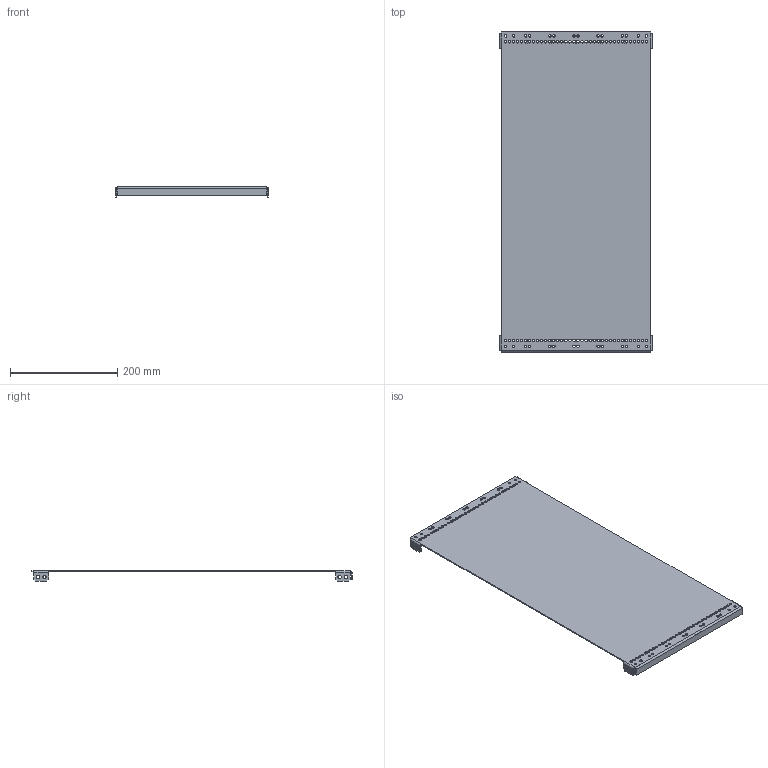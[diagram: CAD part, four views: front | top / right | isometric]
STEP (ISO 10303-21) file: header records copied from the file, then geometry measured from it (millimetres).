
FILE_DESCRIPTION(('STEP AP203'), '1');
FILE_NAME('Ïàíåëü áîêîâàÿ ðåëåéíîãî îòñåêà Â600õÃ400 ìì OptiBox M (2 øò) 419083 ÊÝÀÇ', '', ('UNSPECIFIED'), ('UNSPECIFIED'), 'C3D Converter', 'C3D Toolkit', '');
FILE_SCHEMA(('CONFIG_CONTROL_DESIGN'));
Length unit declared in the file: millimetre
Bounding box: 285 x 597 x 19 mm (x, y, z)
Volume: 339930.6 mm3; surface area: 347177 mm2
Topology: 1 solids, 1 shells, 208 faces, 578 edges, 372 vertices
Faces by surface type: cylinder 118, plane 90
Full cylindrical faces by diameter (mm): 4.6 x100, 6.3 x8
Entity records: 6670 total; most frequent: DIRECTION 1124, CARTESIAN_POINT 1051, ORIENTED_EDGE 940, EDGE_LOOP 552, EDGE_CURVE 470, AXIS2_PLACEMENT_3D 445, VERTEX_POINT 372, FACE_BOUND 336
